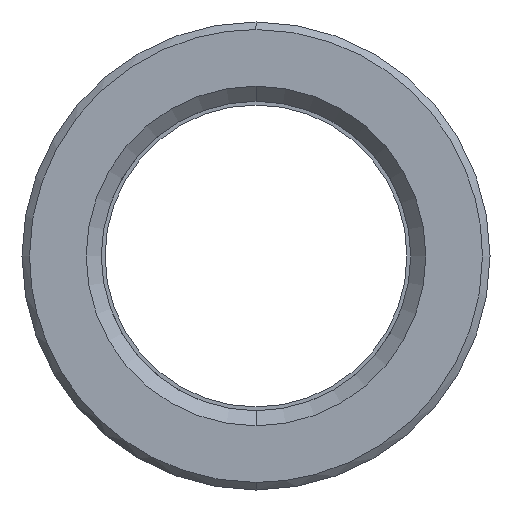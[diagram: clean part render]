
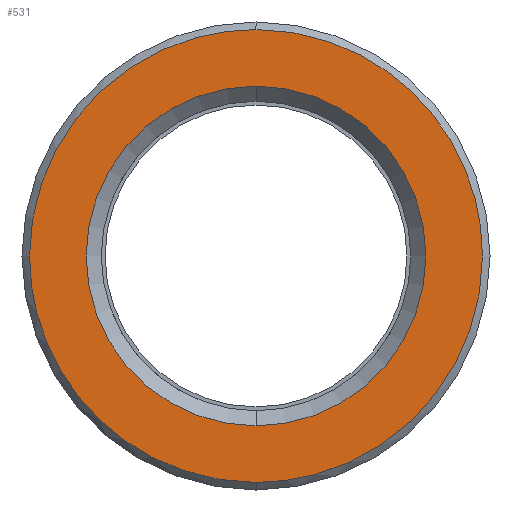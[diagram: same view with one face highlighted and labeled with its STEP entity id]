
A CAD part, left-side view. The second image highlights one B-rep face of the part: STEP entity #531.
In plain terms, the highlighted planar face has unit normal (-1, 0, 0).
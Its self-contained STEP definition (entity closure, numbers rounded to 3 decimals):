
#311=CARTESIAN_POINT('Axis2P3D Location',(0.,0.,0.)) ;
#315=CARTESIAN_POINT('Vertex',(0.,11.25,0.)) ;
#317=CARTESIAN_POINT('Vertex',(0.,0.,11.25)) ;
#320=CARTESIAN_POINT('Axis2P3D Location',(0.,0.,0.)) ;
#324=CARTESIAN_POINT('Vertex',(0.,0.,-11.25)) ;
#351=CARTESIAN_POINT('Axis2P3D Location',(0.,0.,0.)) ;
#355=CARTESIAN_POINT('Vertex',(0.,-11.25,0.)) ;
#358=CARTESIAN_POINT('Axis2P3D Location',(0.,0.,0.)) ;
#438=CARTESIAN_POINT('Axis2P3D Location',(0.,15.,0.)) ;
#444=CARTESIAN_POINT('Control Point',(0.,0.,-15.)) ;
#445=CARTESIAN_POINT('Control Point',(0.,1.359,-15.)) ;
#446=CARTESIAN_POINT('Control Point',(0.,2.718,-14.846)) ;
#447=CARTESIAN_POINT('Control Point',(0.,4.054,-14.538)) ;
#448=CARTESIAN_POINT('Control Point',(0.,6.784,-13.572)) ;
#449=CARTESIAN_POINT('Control Point',(0.,9.211,-11.985)) ;
#450=CARTESIAN_POINT('Control Point',(0.,10.379,-10.99)) ;
#451=CARTESIAN_POINT('Control Point',(0.,12.437,-8.725)) ;
#452=CARTESIAN_POINT('Control Point',(0.,13.866,-6.019)) ;
#453=CARTESIAN_POINT('Control Point',(0.,14.405,-4.583)) ;
#454=CARTESIAN_POINT('Control Point',(0.,14.829,-2.782)) ;
#455=CARTESIAN_POINT('Control Point',(0.,14.975,-0.952)) ;
#456=CARTESIAN_POINT('Control Point',(0.,14.992,-0.635)) ;
#457=CARTESIAN_POINT('Control Point',(0.,15.,-0.317)) ;
#458=CARTESIAN_POINT('Control Point',(0.,15.,0.)) ;
#459=CARTESIAN_POINT('Vertex',(0.,0.,-15.)) ;
#461=CARTESIAN_POINT('Vertex',(0.,15.,0.)) ;
#465=CARTESIAN_POINT('Control Point',(0.,-15.,0.)) ;
#466=CARTESIAN_POINT('Control Point',(0.,-15.,-1.518)) ;
#467=CARTESIAN_POINT('Control Point',(0.,-14.808,-3.036)) ;
#468=CARTESIAN_POINT('Control Point',(0.,-14.424,-4.521)) ;
#469=CARTESIAN_POINT('Control Point',(0.,-13.289,-7.363)) ;
#470=CARTESIAN_POINT('Control Point',(0.,-11.481,-9.832)) ;
#471=CARTESIAN_POINT('Control Point',(0.,-10.425,-10.945)) ;
#472=CARTESIAN_POINT('Control Point',(0.,-8.055,-12.881)) ;
#473=CARTESIAN_POINT('Control Point',(0.,-5.278,-14.165)) ;
#474=CARTESIAN_POINT('Control Point',(0.,-3.815,-14.627)) ;
#475=CARTESIAN_POINT('Control Point',(0.,-2.152,-14.927)) ;
#476=CARTESIAN_POINT('Control Point',(0.,-0.476,-14.994)) ;
#477=CARTESIAN_POINT('Control Point',(0.,-0.317,-14.998)) ;
#478=CARTESIAN_POINT('Control Point',(0.,-0.159,-15.)) ;
#479=CARTESIAN_POINT('Control Point',(0.,0.,-15.)) ;
#480=CARTESIAN_POINT('Vertex',(0.,-15.,0.)) ;
#484=CARTESIAN_POINT('Control Point',(0.,0.,15.)) ;
#485=CARTESIAN_POINT('Control Point',(0.,-1.359,15.)) ;
#486=CARTESIAN_POINT('Control Point',(0.,-2.718,14.846)) ;
#487=CARTESIAN_POINT('Control Point',(0.,-4.054,14.538)) ;
#488=CARTESIAN_POINT('Control Point',(0.,-6.784,13.572)) ;
#489=CARTESIAN_POINT('Control Point',(0.,-9.211,11.985)) ;
#490=CARTESIAN_POINT('Control Point',(0.,-10.379,10.99)) ;
#491=CARTESIAN_POINT('Control Point',(0.,-12.437,8.725)) ;
#492=CARTESIAN_POINT('Control Point',(0.,-13.866,6.019)) ;
#493=CARTESIAN_POINT('Control Point',(0.,-14.405,4.583)) ;
#494=CARTESIAN_POINT('Control Point',(0.,-14.829,2.782)) ;
#495=CARTESIAN_POINT('Control Point',(0.,-14.975,0.952)) ;
#496=CARTESIAN_POINT('Control Point',(0.,-14.992,0.635)) ;
#497=CARTESIAN_POINT('Control Point',(0.,-15.,0.317)) ;
#498=CARTESIAN_POINT('Control Point',(0.,-15.,0.)) ;
#499=CARTESIAN_POINT('Vertex',(0.,0.,15.)) ;
#503=CARTESIAN_POINT('Control Point',(0.,15.,0.)) ;
#504=CARTESIAN_POINT('Control Point',(0.,15.,1.518)) ;
#505=CARTESIAN_POINT('Control Point',(0.,14.808,3.036)) ;
#506=CARTESIAN_POINT('Control Point',(0.,14.424,4.521)) ;
#507=CARTESIAN_POINT('Control Point',(0.,13.289,7.363)) ;
#508=CARTESIAN_POINT('Control Point',(0.,11.481,9.832)) ;
#509=CARTESIAN_POINT('Control Point',(0.,10.425,10.945)) ;
#510=CARTESIAN_POINT('Control Point',(0.,8.055,12.881)) ;
#511=CARTESIAN_POINT('Control Point',(0.,5.278,14.165)) ;
#512=CARTESIAN_POINT('Control Point',(0.,3.815,14.627)) ;
#513=CARTESIAN_POINT('Control Point',(0.,2.152,14.927)) ;
#514=CARTESIAN_POINT('Control Point',(0.,0.476,14.994)) ;
#515=CARTESIAN_POINT('Control Point',(0.,0.317,14.998)) ;
#516=CARTESIAN_POINT('Control Point',(0.,0.159,15.)) ;
#517=CARTESIAN_POINT('Control Point',(0.,0.,15.)) ;
#312=DIRECTION('Axis2P3D Direction',(-1.,0.,0.)) ;
#321=DIRECTION('Axis2P3D Direction',(-1.,0.,0.)) ;
#352=DIRECTION('Axis2P3D Direction',(-1.,0.,0.)) ;
#359=DIRECTION('Axis2P3D Direction',(-1.,0.,0.)) ;
#439=DIRECTION('Axis2P3D Direction',(-1.,0.,0.)) ;
#440=DIRECTION('Axis2P3D XDirection',(0.,0.,1.)) ;
#313=AXIS2_PLACEMENT_3D('Circle Axis2P3D',#311,#312,$) ;
#322=AXIS2_PLACEMENT_3D('Circle Axis2P3D',#320,#321,$) ;
#353=AXIS2_PLACEMENT_3D('Circle Axis2P3D',#351,#352,$) ;
#360=AXIS2_PLACEMENT_3D('Circle Axis2P3D',#358,#359,$) ;
#441=AXIS2_PLACEMENT_3D('Plane Axis2P3D',#438,#439,#440) ;
#520=ORIENTED_EDGE('',*,*,#463,.F.) ;
#521=ORIENTED_EDGE('',*,*,#482,.F.) ;
#522=ORIENTED_EDGE('',*,*,#501,.F.) ;
#523=ORIENTED_EDGE('',*,*,#518,.F.) ;
#526=ORIENTED_EDGE('',*,*,#319,.T.) ;
#527=ORIENTED_EDGE('',*,*,#362,.T.) ;
#528=ORIENTED_EDGE('',*,*,#357,.T.) ;
#529=ORIENTED_EDGE('',*,*,#326,.T.) ;
#530=FACE_BOUND('',#525,.T.) ;
#531=ADVANCED_FACE('553-20X116',(#524,#530),#442,.T.) ;
#443=B_SPLINE_CURVE_WITH_KNOTS('',5,(#444,#445,#446,#447,#448,#449,#450,#451,#452,#453,#454,#455,#456,#457,#458),.UNSPECIFIED.,.F.,.U.,(6,3,3,3,6),(33.321,42.932,53.665,64.398,66.642),.UNSPECIFIED.) ;
#464=B_SPLINE_CURVE_WITH_KNOTS('',5,(#465,#466,#467,#468,#469,#470,#471,#472,#473,#474,#475,#476,#477,#478,#479),.UNSPECIFIED.,.F.,.U.,(6,3,3,3,6),(0.,10.733,21.466,32.199,33.321),.UNSPECIFIED.) ;
#483=B_SPLINE_CURVE_WITH_KNOTS('',5,(#484,#485,#486,#487,#488,#489,#490,#491,#492,#493,#494,#495,#496,#497,#498),.UNSPECIFIED.,.F.,.U.,(6,3,3,3,6),(33.321,42.932,53.665,64.398,66.642),.UNSPECIFIED.) ;
#502=B_SPLINE_CURVE_WITH_KNOTS('',5,(#503,#504,#505,#506,#507,#508,#509,#510,#511,#512,#513,#514,#515,#516,#517),.UNSPECIFIED.,.F.,.U.,(6,3,3,3,6),(0.,10.733,21.466,32.199,33.321),.UNSPECIFIED.) ;
#314=CIRCLE('generated circle',#313,11.25) ;
#323=CIRCLE('generated circle',#322,11.25) ;
#354=CIRCLE('generated circle',#353,11.25) ;
#361=CIRCLE('generated circle',#360,11.25) ;
#319=EDGE_CURVE('',#316,#318,#314,.F.) ;
#326=EDGE_CURVE('',#325,#316,#323,.F.) ;
#357=EDGE_CURVE('',#356,#325,#354,.F.) ;
#362=EDGE_CURVE('',#318,#356,#361,.F.) ;
#463=EDGE_CURVE('',#460,#462,#443,.T.) ;
#482=EDGE_CURVE('',#481,#460,#464,.T.) ;
#501=EDGE_CURVE('',#500,#481,#483,.T.) ;
#518=EDGE_CURVE('',#462,#500,#502,.T.) ;
#519=EDGE_LOOP('',(#520,#521,#522,#523)) ;
#525=EDGE_LOOP('',(#526,#527,#528,#529)) ;
#524=FACE_OUTER_BOUND('',#519,.T.) ;
#442=PLANE('Plane',#441) ;
#316=VERTEX_POINT('',#315) ;
#318=VERTEX_POINT('',#317) ;
#325=VERTEX_POINT('',#324) ;
#356=VERTEX_POINT('',#355) ;
#460=VERTEX_POINT('',#459) ;
#462=VERTEX_POINT('',#461) ;
#481=VERTEX_POINT('',#480) ;
#500=VERTEX_POINT('',#499) ;
